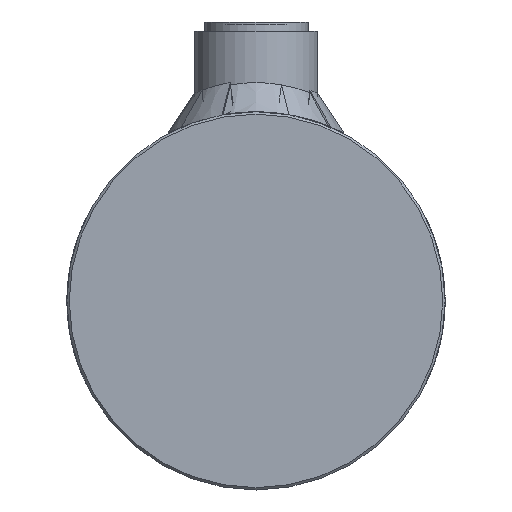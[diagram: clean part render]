
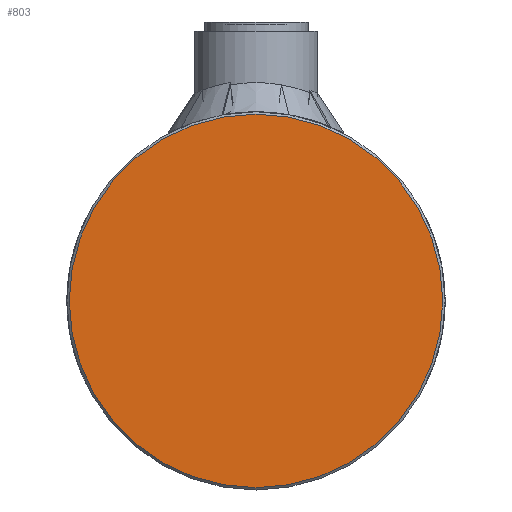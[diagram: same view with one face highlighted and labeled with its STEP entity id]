
A CAD part, left-side view. The second image highlights one B-rep face of the part: STEP entity #803.
In plain terms, the highlighted planar face has unit normal (-1, 0, 0).
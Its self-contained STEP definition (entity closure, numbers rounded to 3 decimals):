
#803 = ADVANCED_FACE( '', ( #1551 ), #1552, .T. );
#1551 = FACE_OUTER_BOUND( '', #4251, .T. );
#1552 = PLANE( '', #4252 );
#4251 = EDGE_LOOP( '', ( #8797 ) );
#4252 = AXIS2_PLACEMENT_3D( '', #8798, #8799, #8800 );
#8797 = ORIENTED_EDGE( '', *, *, #9941, .T. );
#8798 = CARTESIAN_POINT( '', ( -63., 0., 0. ) );
#8799 = DIRECTION( '', ( -1., 0., 0. ) );
#8800 = DIRECTION( '', ( 0., -1., 0. ) );
#9941 = EDGE_CURVE( '', #10752, #10752, #10753, .T. );
#10752 = VERTEX_POINT( '', #13044 );
#10753 = CIRCLE( '', #13045, 39.5 );
#13044 = CARTESIAN_POINT( '', ( -63., -39.5, 0. ) );
#13045 = AXIS2_PLACEMENT_3D( '', #14448, #14449, #14450 );
#14448 = CARTESIAN_POINT( '', ( -63., 0., 0. ) );
#14449 = DIRECTION( '', ( -1., 0., 0. ) );
#14450 = DIRECTION( '', ( 0., -1., 0. ) );
